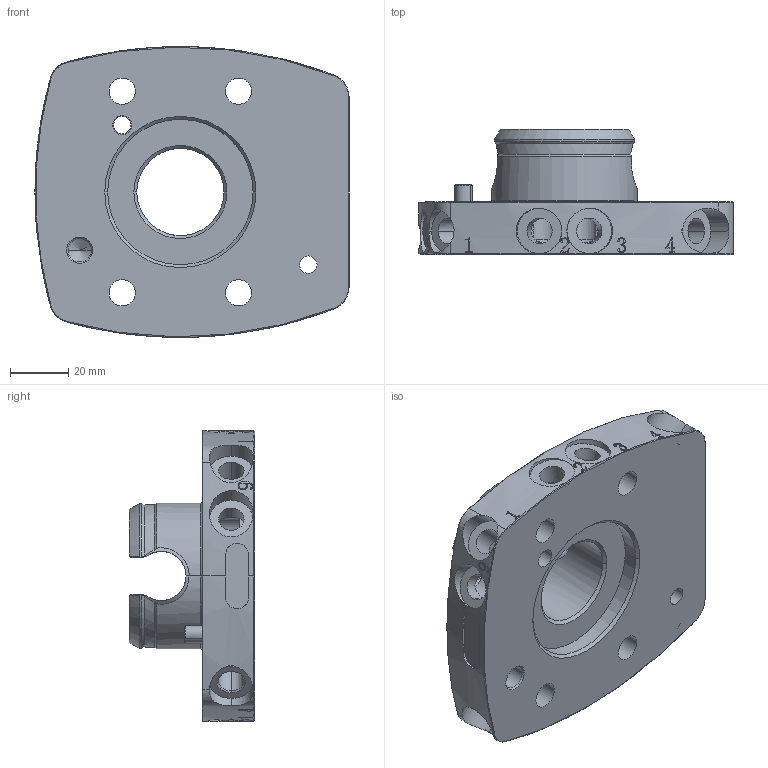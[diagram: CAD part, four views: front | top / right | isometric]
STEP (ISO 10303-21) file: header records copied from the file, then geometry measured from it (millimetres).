
FILE_DESCRIPTION (( 'STEP AP203' ), '1' );
FILE_NAME ('QC-G36.STEP', '2025-01-06T11:59:49', ( 'Windows User' ), ( 'P R C' ), 'SwSTEP 2.0', 'SolidWorks 2018', '' );
FILE_SCHEMA (( 'CONFIG_CONTROL_DESIGN' ));
Length unit declared in the file: millimetre
Products named in the file (1): QC-G36
Bounding box: 108 x 43 x 100 mm (x, y, z)
Surface area: 42708.2 mm2 (no closed solid volume)
Topology: 0 solids, 1 shells, 422 faces, 1134 edges, 713 vertices
Faces by surface type: cylinder 134, bspline 112, cone 99, plane 75, torus 2
Entity records: 34664 total; most frequent: CARTESIAN_POINT 25190, ORIENTED_EDGE 2202, DIRECTION 1548, EDGE_CURVE 1108, VERTEX_POINT 713, AXIS2_PLACEMENT_3D 634, B_SPLINE_CURVE_WITH_KNOTS 497, EDGE_LOOP 482
